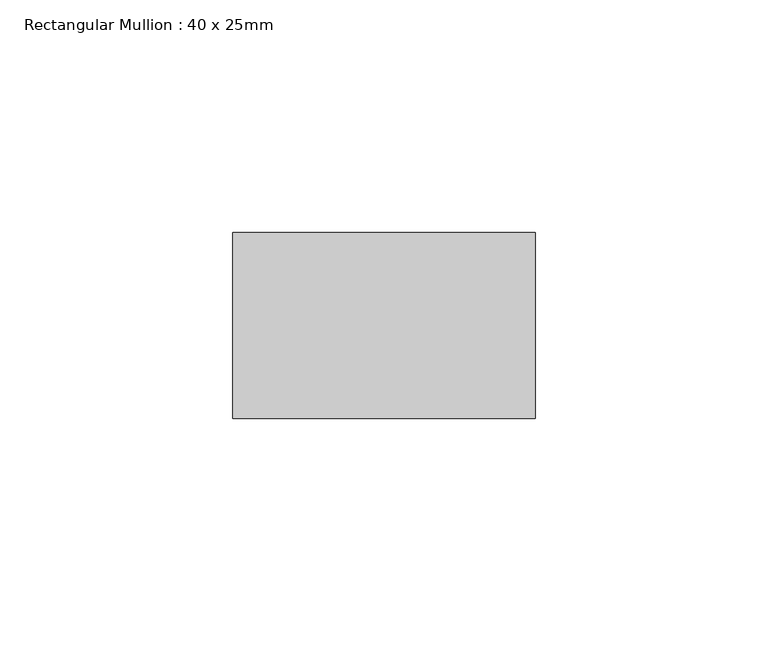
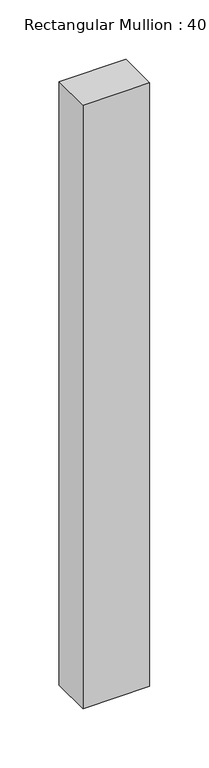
"""IFC4 building model written with IfcOpenShell, lengths in millimetres: member geometry, Rectangular Mullion : 40 x 25mm."""

from ifc_helpers import new_model, si_unit, frame, origin, place, context, project, spatial, polyline, outline, extrude, source, transform, mapped, element, save


def rectangular_mullion_40_x_25mm_ebde3971(model_context):
    return source(origin(), model_context, "Body", "SweptSolid", [
        extrude(outline(polyline([(0.0, -20.0), (0.0, -60.0), (-65.0, -60.0), (-65.0, -20.0), (0.0, -20.0)])), frame((0.0, 0.0, -620.4019451), z_axis=(0.0, 0.0, 1.0), x_axis=(1.0, 0.0, 0.0)), (0.0, 0.0, 1.0), 620.4019451),
    ])


if __name__ == "__main__":
    model = new_model("IFC4")
    model_context = context("Model", 3, world=origin())
    ifc_project = project(units=[si_unit("LENGTHUNIT", "METRE", prefix="MILLI")], contexts=[model_context])
    site = spatial("IfcSite", under=ifc_project)
    building = spatial("IfcBuilding", under=site)
    placement = place(None, origin())
    rectangular_mullion_40_x_25mm_shape = rectangular_mullion_40_x_25mm_ebde3971(model_context)
    element("IfcMember", 1, ObjectType="Rectangular Mullion : 40 x 25mm", at=placement, inside=building, context=model_context, shape_type="MappedRepresentation", body=[
        mapped(rectangular_mullion_40_x_25mm_shape, transform((0.0, 0.0, 0.0), x_axis=(1.0, 0.0, 0.0), y_axis=(0.0, 1.0, 0.0), z_axis=(0.0, 0.0, 1.0))),
    ])
    save(model, "model.ifc")
